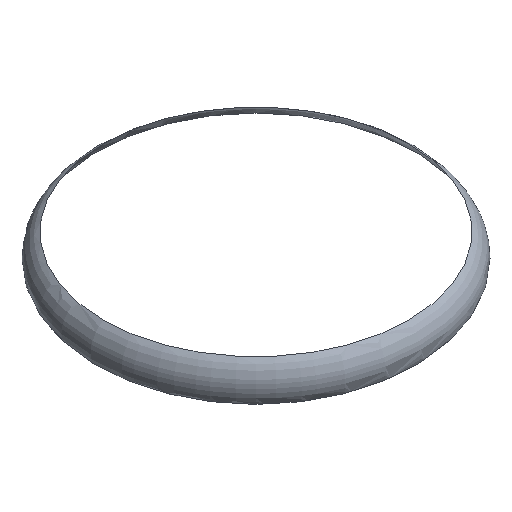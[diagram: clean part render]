
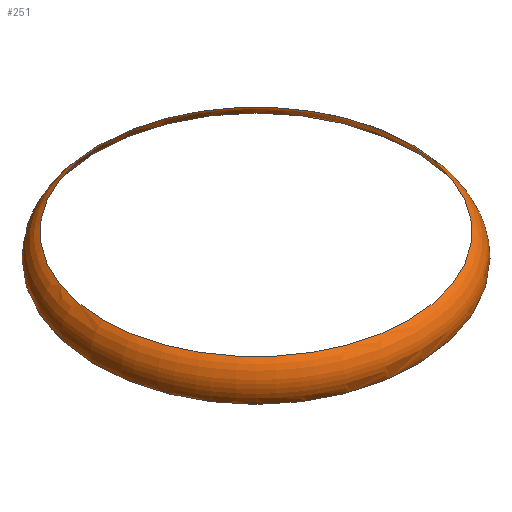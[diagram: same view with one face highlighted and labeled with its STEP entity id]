
A CAD part, isometric view. The second image highlights one B-rep face of the part: STEP entity #251.
In plain terms, the highlighted toroidal (fillet/blend) face has major radius 5 mm and minor radius 1 mm.
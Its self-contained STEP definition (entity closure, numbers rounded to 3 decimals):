
#1=CARTESIAN_POINT('',(0.,0.,0.));
#2=DIRECTION('',(0.,0.,1.));
#3=DIRECTION('',(1.,0.,0.));
#4=AXIS2_PLACEMENT_3D('',#1,#2,#3);
#100=CARTESIAN_POINT('',(5.96,0.,0.279));
#101=CARTESIAN_POINT('',(5.831,1.16,0.326));
#102=CARTESIAN_POINT('',(5.481,2.27,0.361));
#103=CARTESIAN_POINT('',(4.926,3.291,0.382));
#104=CARTESIAN_POINT('',(4.187,4.187,0.389));
#105=CARTESIAN_POINT('',(3.291,4.926,0.382));
#106=CARTESIAN_POINT('',(2.27,5.481,0.361));
#107=CARTESIAN_POINT('',(1.16,5.831,0.326));
#108=CARTESIAN_POINT('',(0.,5.96,0.279));
#109=CARTESIAN_POINT('',(-1.166,5.861,0.22));
#110=CARTESIAN_POINT('',(-2.292,5.532,0.152));
#111=CARTESIAN_POINT('',(-3.332,4.986,0.078));
#112=CARTESIAN_POINT('',(-4.243,4.243,0.));
#113=CARTESIAN_POINT('',(-4.986,3.332,-0.078));
#114=CARTESIAN_POINT('',(-5.532,2.292,-0.152));
#115=CARTESIAN_POINT('',(-5.861,1.166,-0.22));
#116=CARTESIAN_POINT('',(-5.96,0.,-0.279));
#117=CARTESIAN_POINT('',(-5.831,-1.16,-0.326));
#118=CARTESIAN_POINT('',(-5.481,-2.27,-0.361));
#119=CARTESIAN_POINT('',(-4.926,-3.291,-0.382));
#120=CARTESIAN_POINT('',(-4.187,-4.187,-0.389));
#121=CARTESIAN_POINT('',(-3.291,-4.926,-0.382));
#122=CARTESIAN_POINT('',(-2.27,-5.481,-0.361));
#123=CARTESIAN_POINT('',(-1.16,-5.831,-0.326));
#124=CARTESIAN_POINT('',(0.,-5.96,-0.279));
#125=CARTESIAN_POINT('',(1.166,-5.861,-0.22));
#126=CARTESIAN_POINT('',(2.292,-5.532,-0.152));
#127=CARTESIAN_POINT('',(3.332,-4.986,-0.078));
#128=CARTESIAN_POINT('',(4.243,-4.243,0.));
#129=CARTESIAN_POINT('',(4.986,-3.332,0.078));
#130=CARTESIAN_POINT('',(5.532,-2.292,0.152));
#131=CARTESIAN_POINT('',(5.861,-1.166,0.22));
#132=CARTESIAN_POINT('',(5.96,0.,0.279));
#133=CARTESIAN_POINT('',(5.54,0.,0.841));
#134=CARTESIAN_POINT('',(0.,0.,0.841));
#135=AXIS2_PLACEMENT_3D('',#134,#2,#3);
#200=POLYLINE('',(#100,#101,#102,#103,#104,#105,#106,#107,#108,#109,#110,#111,#112,#113,#114,#115,#116));
#201=POLYLINE('',(#116,#117,#118,#119,#120,#121,#122,#123,#124,#125,#126,#127,#128,#129,#130,#131,#132));
#202=CIRCLE('',#135,5.54);
#210=VERTEX_POINT('',#100);
#211=VERTEX_POINT('',#116);
#212=VERTEX_POINT('',#133);
#220=EDGE_CURVE('',#210,#211,#200,.T.);
#221=EDGE_CURVE('',#211,#210,#201,.T.);
#222=EDGE_CURVE('',#212,#212,#202,.T.);
#230=ORIENTED_EDGE('',*,*,#220,.T.);
#231=ORIENTED_EDGE('',*,*,#221,.T.);
#232=ORIENTED_EDGE('',*,*,#222,.F.);
#240=EDGE_LOOP('',(#230,#231));
#241=EDGE_LOOP('',(#232));
#242=FACE_OUTER_BOUND('',#240,.T.);
#243=FACE_OUTER_BOUND('',#241,.T.);
#250=TOROIDAL_SURFACE('',#4,5.,1.);
#251=ADVANCED_FACE('',(#242,#243),#250,.T.);
